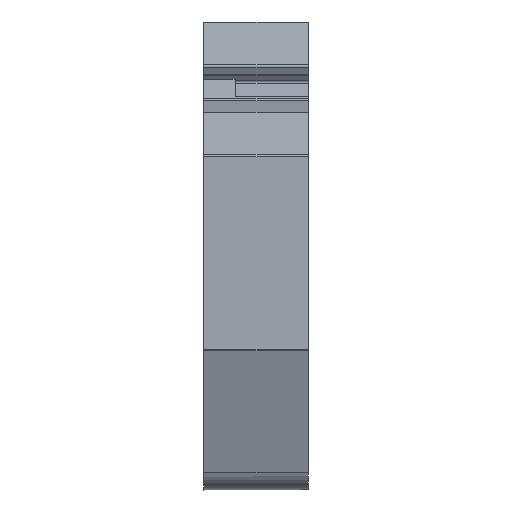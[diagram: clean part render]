
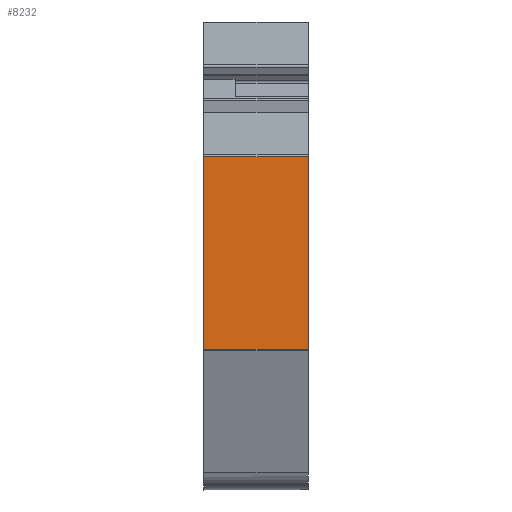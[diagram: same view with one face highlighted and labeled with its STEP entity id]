
A CAD part, left-side view. The second image highlights one B-rep face of the part: STEP entity #8232.
In plain terms, the highlighted planar face has unit normal (-1, -0.004, 0).
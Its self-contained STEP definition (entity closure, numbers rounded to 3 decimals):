
#246=LINE('',#10918,#889);
#387=LINE('',#11258,#1030);
#388=LINE('',#11260,#1031);
#389=LINE('',#11262,#1032);
#889=VECTOR('',#9182,1000.);
#1030=VECTOR('',#9433,1000.);
#1031=VECTOR('',#9436,1000.);
#1032=VECTOR('',#9437,1000.);
#1525=PLANE('',#8613);
#2032=ORIENTED_EDGE('',*,*,#3772,.F.);
#2033=ORIENTED_EDGE('',*,*,#3773,.F.);
#2034=ORIENTED_EDGE('',*,*,#3598,.T.);
#2035=ORIENTED_EDGE('',*,*,#3771,.T.);
#3598=EDGE_CURVE('',#4502,#4501,#246,.T.);
#3771=EDGE_CURVE('',#4501,#4645,#387,.T.);
#3772=EDGE_CURVE('',#4646,#4645,#388,.T.);
#3773=EDGE_CURVE('',#4502,#4646,#389,.T.);
#4501=VERTEX_POINT('',#10917);
#4502=VERTEX_POINT('',#10919);
#4645=VERTEX_POINT('',#11257);
#4646=VERTEX_POINT('',#11261);
#5202=EDGE_LOOP('',(#2032,#2033,#2034,#2035));
#5559=FACE_BOUND('',#5202,.T.);
#8232=ADVANCED_FACE('',(#5559),#1525,.T.);
#8613=AXIS2_PLACEMENT_3D('',#11259,#9434,#9435);
#9182=DIRECTION('',(0.,0.,-1.));
#9433=DIRECTION('',(0.003,-1.,0.001));
#9434=DIRECTION('',(-1.,-0.003,0.));
#9435=DIRECTION('',(0.,0.,1.));
#9436=DIRECTION('',(0.,0.,-1.));
#9437=DIRECTION('',(0.003,-1.,-0.002));
#10917=CARTESIAN_POINT('',(-30.6,9.,-21.965));
#10918=CARTESIAN_POINT('',(-30.6,9.,18.783));
#10919=CARTESIAN_POINT('',(-30.6,9.,-7.276));
#11257=CARTESIAN_POINT('',(-30.572,1.,-21.96));
#11258=CARTESIAN_POINT('',(-30.603,9.977,-21.965));
#11259=CARTESIAN_POINT('',(-30.603,10.,15.55));
#11260=CARTESIAN_POINT('',(-30.572,1.,-17.));
#11261=CARTESIAN_POINT('',(-30.572,1.,-7.292));
#11262=CARTESIAN_POINT('',(-30.6,9.,-7.276));
